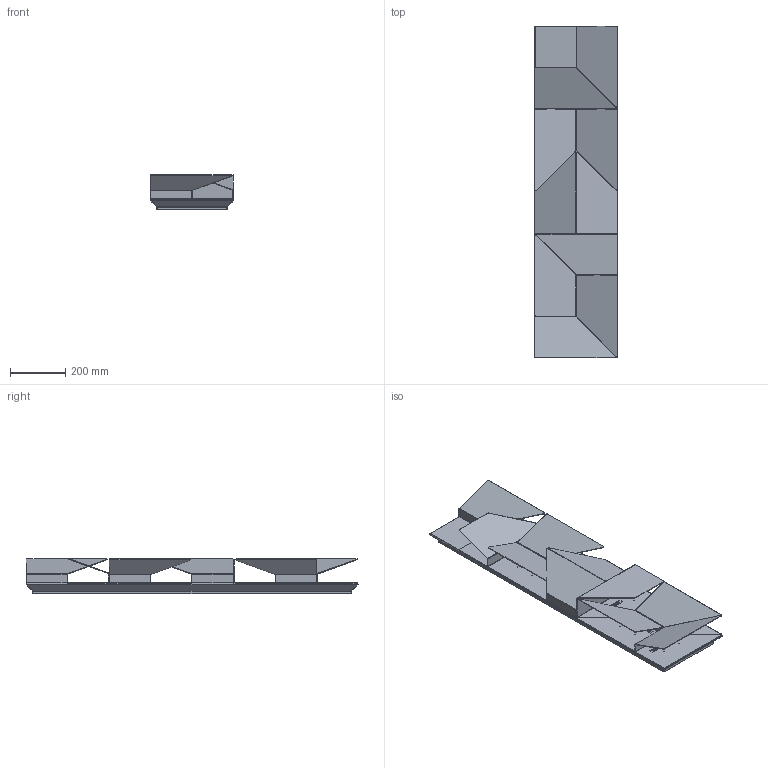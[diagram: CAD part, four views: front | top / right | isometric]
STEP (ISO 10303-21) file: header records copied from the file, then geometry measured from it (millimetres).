
FILE_DESCRIPTION (( 'STEP AP214' ), '1' );
FILE_NAME ('3D_WALL_SHADOW_LONG.STEP', '2018-03-15T08:56:59', ( 'Utente' ), ( '' ), 'SwSTEP 2.0', 'SolidWorks 2016', '' );
FILE_SCHEMA (( 'AUTOMOTIVE_DESIGN' ));
Length unit declared in the file: millimetre
Products named in the file (10): 010WSH700103_Corpo sostegno sagome LongMARTIMM-1^3D_WALL_SHADOW_LONG; 010WSH700600 - SAGOMA N°5MARTIMM-18^3D_WALL_SHADOW_LONG; Group12^3D_WALL_SHADOW_LONG; Group7^3D_WALL_SHADOW_LONG; Group6^3D_WALL_SHADOW_LONG; Group5^3D_WALL_SHADOW_LONG; 3D_WALL_SHADOW_LONG; 010WSH700500 - SAGOMA N°4MARTIMM-2^3D_WALL_SHADOW_LONG; 010WSH700300 - SAGOMA N°2MARTIMM-20^3D_WALL_SHADOW_LONG; 010WSH700700 - SAGOMA N°6MARTIMM-3^3D_WALL_SHADOW_LONG
Assembly tree (9 placements, depth 2):
  3D_WALL_SHADOW_LONG
    Group5^3D_WALL_SHADOW_LONG
    Group6^3D_WALL_SHADOW_LONG
    Group7^3D_WALL_SHADOW_LONG
    Group12^3D_WALL_SHADOW_LONG
    010WSH700600 - SAGOMA N°5MARTIMM-18^3D_WALL_SHADOW_LONG
    010WSH700103_Corpo sostegno sagome LongMARTIMM-1^3D_WALL_SHADOW_LONG
    010WSH700700 - SAGOMA N°6MARTIMM-3^3D_WALL_SHADOW_LONG
    010WSH700300 - SAGOMA N°2MARTIMM-20^3D_WALL_SHADOW_LONG
    010WSH700500 - SAGOMA N°4MARTIMM-2^3D_WALL_SHADOW_LONG
Bounding box: 299.75 x 1198.75 x 128.06 mm (x, y, z)
Volume: 2221112.4 mm3; surface area: 2501925.3 mm2
Topology: 19 solids, 19 shells, 1135 faces, 2667 edges, 1708 vertices
Faces by surface type: plane 944, cylinder 163, bspline 28
Entity records: 33511 total; most frequent: CARTESIAN_POINT 6974, ORIENTED_EDGE 5334, DIRECTION 5111, EDGE_CURVE 2667, VECTOR 2333, LINE 2333, VERTEX_POINT 1708, AXIS2_PLACEMENT_3D 1389
